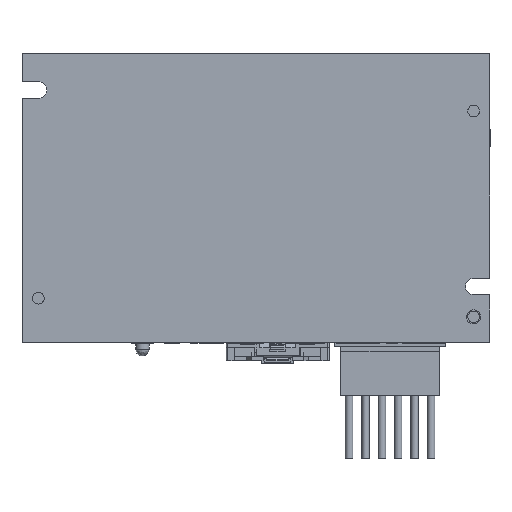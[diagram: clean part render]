
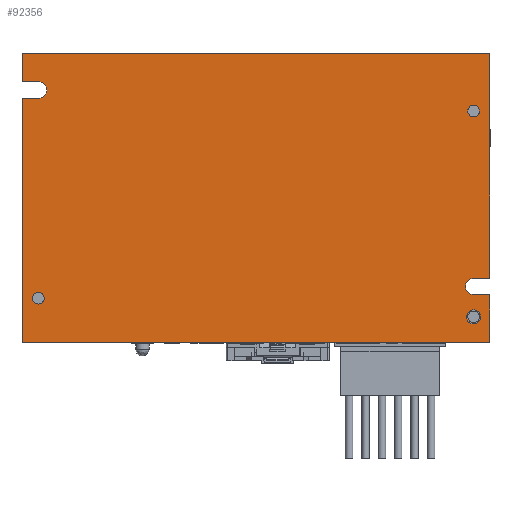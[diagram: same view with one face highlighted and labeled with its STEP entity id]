
A CAD part, front view. The second image highlights one B-rep face of the part: STEP entity #92356.
In plain terms, the highlighted planar face has unit normal (0, -1, 0).
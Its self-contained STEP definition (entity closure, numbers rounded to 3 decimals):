
#3437 = DIRECTION ( 'NONE',  ( -1., 0., 0. ) ) ;
#4209 = CARTESIAN_POINT ( 'NONE',  ( 50., -0.5, -48.25 ) ) ;
#4348 = CIRCLE ( 'NONE', #52572, 1.25 ) ;
#4907 = DIRECTION ( 'NONE',  ( 0., 0., 1. ) ) ;
#5081 = CARTESIAN_POINT ( 'NONE',  ( -50., -0.5, -6.25 ) ) ;
#5312 = ORIENTED_EDGE ( 'NONE', *, *, #45473, .T. ) ;
#5486 = VECTOR ( 'NONE', #34347, 1000. ) ;
#5924 = CIRCLE ( 'NONE', #53990, 1.75 ) ;
#8251 = LINE ( 'NONE', #70789, #31046 ) ;
#11512 = VECTOR ( 'NONE', #33870, 1000. ) ;
#12606 = ORIENTED_EDGE ( 'NONE', *, *, #69402, .T. ) ;
#13183 = CARTESIAN_POINT ( 'NONE',  ( 50., -0.5, -48.25 ) ) ;
#14597 = DIRECTION ( 'NONE',  ( 0., -1., 0. ) ) ;
#15783 = EDGE_CURVE ( 'NONE', #44296, #24975, #39828, .T. ) ;
#16529 = DIRECTION ( 'NONE',  ( -1., 0., 0. ) ) ;
#16721 = FACE_OUTER_BOUND ( 'NONE', #44802, .T. ) ;
#17101 = CARTESIAN_POINT ( 'NONE',  ( -50., -0.5, 0. ) ) ;
#17822 = CARTESIAN_POINT ( 'NONE',  ( 50., -0.5, -51.75 ) ) ;
#18054 = DIRECTION ( 'NONE',  ( 0., 1., 0. ) ) ;
#19419 = FACE_BOUND ( 'NONE', #34506, .T. ) ;
#19465 = DIRECTION ( 'NONE',  ( 0., 0., -1. ) ) ;
#19528 = CARTESIAN_POINT ( 'NONE',  ( 50., -0.5, -62. ) ) ;
#19853 = CARTESIAN_POINT ( 'NONE',  ( -50., -0.5, -9.75 ) ) ;
#21607 = VERTEX_POINT ( 'NONE', #19528 ) ;
#22189 = EDGE_CURVE ( 'NONE', #35931, #29920, #31566, .T. ) ;
#23119 = CARTESIAN_POINT ( 'NONE',  ( 46.5, -0.5, -51.75 ) ) ;
#24975 = VERTEX_POINT ( 'NONE', #91442 ) ;
#25377 = VECTOR ( 'NONE', #39423, 1000. ) ;
#27094 = EDGE_LOOP ( 'NONE', ( #88146 ) ) ;
#27678 = EDGE_CURVE ( 'NONE', #84213, #84213, #52592, .T. ) ;
#29630 = CARTESIAN_POINT ( 'NONE',  ( -46.5, -0.5, -9.75 ) ) ;
#29702 = EDGE_CURVE ( 'NONE', #32017, #103103, #72345, .T. ) ;
#29920 = VERTEX_POINT ( 'NONE', #19853 ) ;
#30162 = VERTEX_POINT ( 'NONE', #82722 ) ;
#30212 = LINE ( 'NONE', #72655, #95814 ) ;
#31031 = EDGE_LOOP ( 'NONE', ( #103104 ) ) ;
#31046 = VECTOR ( 'NONE', #19465, 1000. ) ;
#31566 = LINE ( 'NONE', #51096, #11512 ) ;
#31879 = ORIENTED_EDGE ( 'NONE', *, *, #65892, .T. ) ;
#32017 = VERTEX_POINT ( 'NONE', #17822 ) ;
#33870 = DIRECTION ( 'NONE',  ( -1., 0., 0. ) ) ;
#34347 = DIRECTION ( 'NONE',  ( 0., 0., -1. ) ) ;
#34506 = EDGE_LOOP ( 'NONE', ( #12606 ) ) ;
#35498 = AXIS2_PLACEMENT_3D ( 'NONE', #40008, #14597, #74498 ) ;
#35931 = VERTEX_POINT ( 'NONE', #29630 ) ;
#36340 = ORIENTED_EDGE ( 'NONE', *, *, #89884, .T. ) ;
#37038 = ORIENTED_EDGE ( 'NONE', *, *, #63728, .T. ) ;
#37555 = DIRECTION ( 'NONE',  ( 0., 0., 1. ) ) ;
#37885 = CARTESIAN_POINT ( 'NONE',  ( -46.5, -0.5, -52.5 ) ) ;
#39423 = DIRECTION ( 'NONE',  ( 1., 0., 0. ) ) ;
#39828 = LINE ( 'NONE', #105953, #59951 ) ;
#40008 = CARTESIAN_POINT ( 'NONE',  ( -46.5, -0.5, -8. ) ) ;
#40285 = CARTESIAN_POINT ( 'NONE',  ( 46.5, -0.5, -12.5 ) ) ;
#41190 = VERTEX_POINT ( 'NONE', #4209 ) ;
#42438 = VECTOR ( 'NONE', #4907, 1000. ) ;
#43198 = AXIS2_PLACEMENT_3D ( 'NONE', #37885, #97805, #46498 ) ;
#43231 = EDGE_CURVE ( 'NONE', #103103, #85076, #5924, .T. ) ;
#43645 = VERTEX_POINT ( 'NONE', #94791 ) ;
#44296 = VERTEX_POINT ( 'NONE', #53147 ) ;
#44318 = DIRECTION ( 'NONE',  ( 0., 1., 0. ) ) ;
#44802 = EDGE_LOOP ( 'NONE', ( #84258, #36340, #5312, #70970, #56959, #49134, #31879, #76142, #101122, #75574, #37038, #100662 ) ) ;
#45473 = EDGE_CURVE ( 'NONE', #86609, #30162, #30212, .T. ) ;
#46498 = DIRECTION ( 'NONE',  ( 0., 0., 1. ) ) ;
#47378 = DIRECTION ( 'NONE',  ( 0., 1., 0. ) ) ;
#48941 = DIRECTION ( 'NONE',  ( 0., 0., 1. ) ) ;
#49134 = ORIENTED_EDGE ( 'NONE', *, *, #89461, .T. ) ;
#51096 = CARTESIAN_POINT ( 'NONE',  ( -46.5, -0.5, -9.75 ) ) ;
#51638 = DIRECTION ( 'NONE',  ( 1., 0., 0. ) ) ;
#52572 = AXIS2_PLACEMENT_3D ( 'NONE', #40285, #100220, #48941 ) ;
#52592 = CIRCLE ( 'NONE', #101173, 1.25 ) ;
#53147 = CARTESIAN_POINT ( 'NONE',  ( 50., -0.5, -0.2 ) ) ;
#53990 = AXIS2_PLACEMENT_3D ( 'NONE', #95619, #44318, #104219 ) ;
#54503 = EDGE_CURVE ( 'NONE', #106906, #106906, #92785, .T. ) ;
#56959 = ORIENTED_EDGE ( 'NONE', *, *, #22189, .T. ) ;
#58495 = LINE ( 'NONE', #102868, #81239 ) ;
#59951 = VECTOR ( 'NONE', #3437, 1000. ) ;
#59971 = VERTEX_POINT ( 'NONE', #70880 ) ;
#62291 = FACE_BOUND ( 'NONE', #31031, .T. ) ;
#63728 = EDGE_CURVE ( 'NONE', #85076, #41190, #73727, .T. ) ;
#65851 = PLANE ( 'NONE',  #35498 ) ;
#65892 = EDGE_CURVE ( 'NONE', #43645, #21607, #58495, .T. ) ;
#67937 = LINE ( 'NONE', #13183, #42438 ) ;
#68395 = LINE ( 'NONE', #17101, #5486 ) ;
#69380 = CARTESIAN_POINT ( 'NONE',  ( -46.5, -0.5, -8. ) ) ;
#69402 = EDGE_CURVE ( 'NONE', #59971, #59971, #4348, .T. ) ;
#70789 = CARTESIAN_POINT ( 'NONE',  ( -50., -0.5, -9.75 ) ) ;
#70880 = CARTESIAN_POINT ( 'NONE',  ( 46.5, -0.5, -11.25 ) ) ;
#70970 = ORIENTED_EDGE ( 'NONE', *, *, #77192, .T. ) ;
#72345 = LINE ( 'NONE', #76454, #75005 ) ;
#72655 = CARTESIAN_POINT ( 'NONE',  ( -50., -0.5, -6.25 ) ) ;
#73727 = LINE ( 'NONE', #99357, #25377 ) ;
#74498 = DIRECTION ( 'NONE',  ( 0., 0., -1. ) ) ;
#75005 = VECTOR ( 'NONE', #16529, 1000. ) ;
#75574 = ORIENTED_EDGE ( 'NONE', *, *, #43231, .T. ) ;
#75647 = VECTOR ( 'NONE', #37555, 1000. ) ;
#75803 = CARTESIAN_POINT ( 'NONE',  ( 46.5, -0.5, -55.25 ) ) ;
#76142 = ORIENTED_EDGE ( 'NONE', *, *, #93246, .T. ) ;
#76454 = CARTESIAN_POINT ( 'NONE',  ( 50., -0.5, -51.75 ) ) ;
#77192 = EDGE_CURVE ( 'NONE', #30162, #35931, #97932, .T. ) ;
#77960 = DIRECTION ( 'NONE',  ( 0., 0., -1. ) ) ;
#81225 = DIRECTION ( 'NONE',  ( 1., 0., 0. ) ) ;
#81239 = VECTOR ( 'NONE', #51638, 1000. ) ;
#82722 = CARTESIAN_POINT ( 'NONE',  ( -46.5, -0.5, -6.25 ) ) ;
#83655 = CARTESIAN_POINT ( 'NONE',  ( 46.5, -0.5, -48.25 ) ) ;
#84213 = VERTEX_POINT ( 'NONE', #75803 ) ;
#84258 = ORIENTED_EDGE ( 'NONE', *, *, #15783, .T. ) ;
#85076 = VERTEX_POINT ( 'NONE', #83655 ) ;
#86609 = VERTEX_POINT ( 'NONE', #5081 ) ;
#86866 = EDGE_CURVE ( 'NONE', #41190, #44296, #67937, .T. ) ;
#87748 = FACE_BOUND ( 'NONE', #27094, .T. ) ;
#88146 = ORIENTED_EDGE ( 'NONE', *, *, #27678, .T. ) ;
#89461 = EDGE_CURVE ( 'NONE', #29920, #43645, #8251, .T. ) ;
#89884 = EDGE_CURVE ( 'NONE', #24975, #86609, #68395, .T. ) ;
#91442 = CARTESIAN_POINT ( 'NONE',  ( -50., -0.5, -0.2 ) ) ;
#92356 = ADVANCED_FACE ( 'NONE', ( #16721, #19419, #87748, #62291 ), #65851, .T. ) ;
#92785 = CIRCLE ( 'NONE', #43198, 1.25 ) ;
#93246 = EDGE_CURVE ( 'NONE', #21607, #32017, #98447, .T. ) ;
#94791 = CARTESIAN_POINT ( 'NONE',  ( -50., -0.5, -62. ) ) ;
#95169 = CARTESIAN_POINT ( 'NONE',  ( -46.5, -0.5, -51.25 ) ) ;
#95619 = CARTESIAN_POINT ( 'NONE',  ( 46.5, -0.5, -50. ) ) ;
#95814 = VECTOR ( 'NONE', #81225, 1000. ) ;
#97079 = CARTESIAN_POINT ( 'NONE',  ( 50., -0.5, -62. ) ) ;
#97805 = DIRECTION ( 'NONE',  ( 0., 1., 0. ) ) ;
#97932 = CIRCLE ( 'NONE', #104860, 1.75 ) ;
#98447 = LINE ( 'NONE', #97079, #75647 ) ;
#98683 = CARTESIAN_POINT ( 'NONE',  ( 46.5, -0.5, -56.5 ) ) ;
#99357 = CARTESIAN_POINT ( 'NONE',  ( 46.5, -0.5, -48.25 ) ) ;
#100220 = DIRECTION ( 'NONE',  ( 0., 1., 0. ) ) ;
#100662 = ORIENTED_EDGE ( 'NONE', *, *, #86866, .T. ) ;
#101122 = ORIENTED_EDGE ( 'NONE', *, *, #29702, .T. ) ;
#101173 = AXIS2_PLACEMENT_3D ( 'NONE', #98683, #47378, #107233 ) ;
#102868 = CARTESIAN_POINT ( 'NONE',  ( -50., -0.5, -62. ) ) ;
#103103 = VERTEX_POINT ( 'NONE', #23119 ) ;
#103104 = ORIENTED_EDGE ( 'NONE', *, *, #54503, .T. ) ;
#104219 = DIRECTION ( 'NONE',  ( 0., 0., -1. ) ) ;
#104860 = AXIS2_PLACEMENT_3D ( 'NONE', #69380, #18054, #77960 ) ;
#105953 = CARTESIAN_POINT ( 'NONE',  ( -50., -0.5, -0.2 ) ) ;
#106906 = VERTEX_POINT ( 'NONE', #95169 ) ;
#107233 = DIRECTION ( 'NONE',  ( 0., 0., 1. ) ) ;
